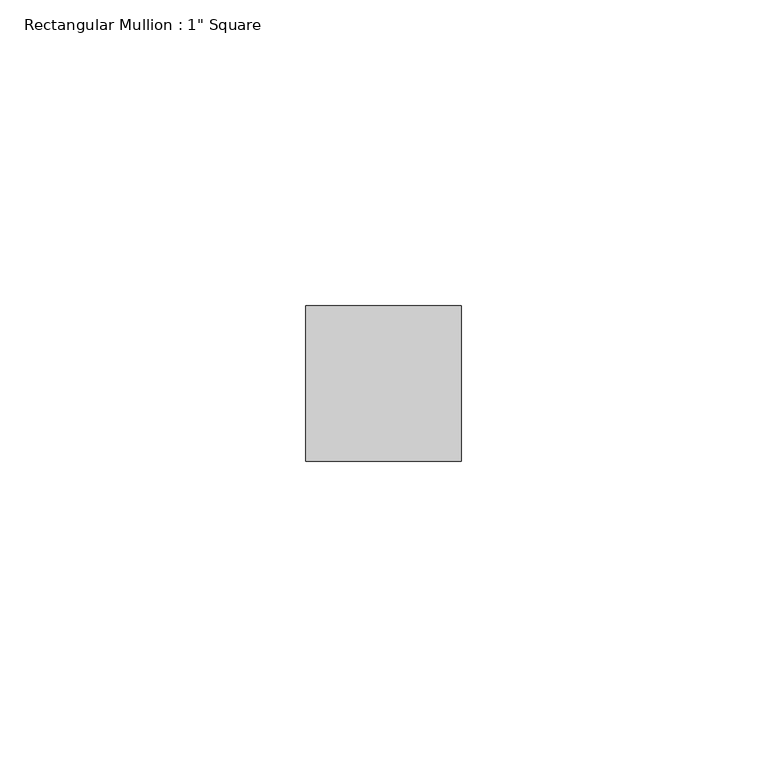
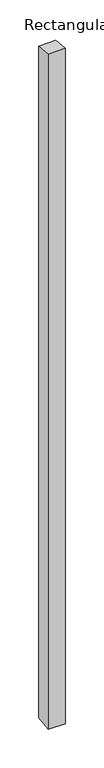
"""IFC4 building model written with IfcOpenShell, lengths in millimetres: member geometry."""

from ifc_helpers import new_model, si_unit, origin, place, context, project, spatial, faceted_brep, source, transform, mapped, element, save


def member_e8657a5b(model_context):
    return source(origin(), model_context, "Body", "Brep", [
        faceted_brep([(-25.4, 12.7, -2.076468), (0.0, 12.7, -1.403297), (0.0, 12.7, -1065.396703), (-25.4, 12.7, -1064.723532), (-25.4, -12.7, 0.730126), (-25.4, -12.7, -1067.530126), (0.0, -12.7, 1.403297), (0.0, -12.7, -1068.203297)], [[[0, 1, 2, 3]], [[4, 0, 3, 5]], [[6, 4, 5, 7]], [[1, 6, 7, 2]], [[1, 0, 4, 6]], [[2, 7, 5, 3]]]),
    ])


if __name__ == "__main__":
    model = new_model("IFC4")
    model_context = context("Model", 3, world=origin())
    ifc_project = project(units=[si_unit("LENGTHUNIT", "METRE", prefix="MILLI")], contexts=[model_context])
    site = spatial("IfcSite", under=ifc_project)
    building = spatial("IfcBuilding", under=site)
    placement = place(None, origin())
    member_shape = member_e8657a5b(model_context)
    element("IfcMember", 1, ObjectType="Rectangular Mullion : 1\" Square", at=placement, inside=building, context=model_context, shape_type="MappedRepresentation", body=[
        mapped(member_shape, transform((0.0, 0.0, 0.0), x_axis=(1.0, 0.0, 0.0), y_axis=(0.0, 1.0, 0.0), z_axis=(0.0, 0.0, 1.0))),
    ])
    save(model, "model.ifc")
